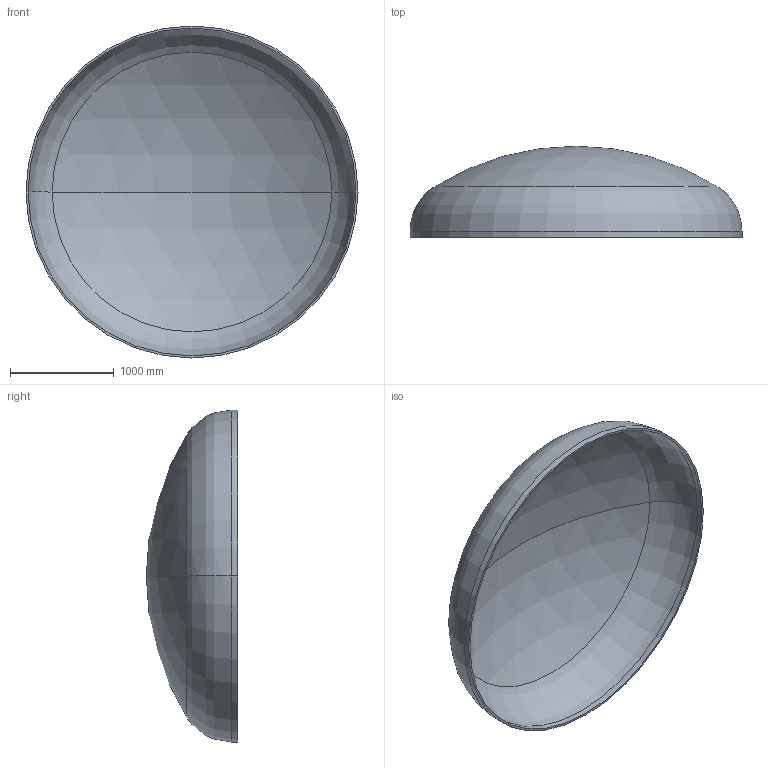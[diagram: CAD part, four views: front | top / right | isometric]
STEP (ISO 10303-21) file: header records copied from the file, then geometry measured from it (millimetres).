
FILE_DESCRIPTION (( 'STEP AP203' ), '1' );
FILE_NAME ('DIN 28013 Korbbogenform_-_Boden DIN 28013 - 3200 x 60 - I - s=20.step', '2016-07-01T18:24:03', ( '' ), ( '' ), 'SwSTEP 2.0', 'SolidWorks 2013', '' );
FILE_SCHEMA (( 'CONFIG_CONTROL_DESIGN' ));
Length unit declared in the file: millimetre
Products named in the file (1): DIN 28013 Korbbogenform_-_Boden DIN 28013 - 3200 x 60 - I - s=20
Bounding box: 3200 x 880.23 x 3200 mm (x, y, z)
Volume: 232688778.8 mm3; surface area: 23469511.8 mm2
Topology: 1 solids, 1 shells, 13 faces, 24 edges, 14 vertices
Faces by surface type: torus 4, cylinder 4, sphere 4, plane 1
Entity records: 407 total; most frequent: DIRECTION 72, CARTESIAN_POINT 52, ORIENTED_EDGE 48, AXIS2_PLACEMENT_3D 34, EDGE_CURVE 24, CIRCLE 20, VERTEX_POINT 14, EDGE_LOOP 14
